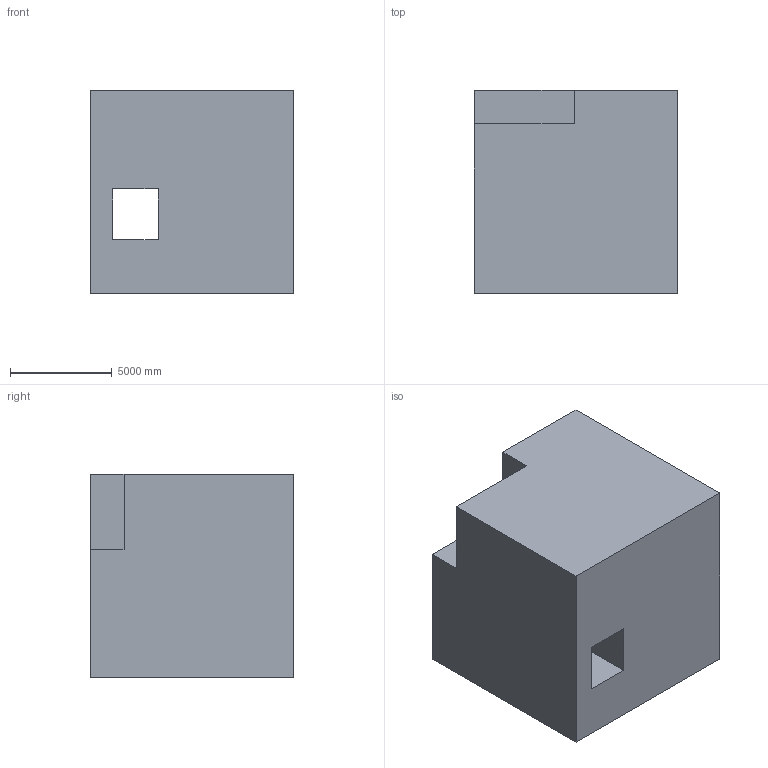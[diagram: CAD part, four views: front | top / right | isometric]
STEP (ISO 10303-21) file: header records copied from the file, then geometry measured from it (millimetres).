
FILE_DESCRIPTION (( 'STEP AP203' ), '1' );
FILE_NAME ('1195.STEP', '2022-08-18T13:08:08', ( 'user' ), ( '' ), 'SwSTEP 2.0', 'SolidWorks 2021', '' );
FILE_SCHEMA (( 'CONFIG_CONTROL_DESIGN' ));
Length unit declared in the file: centimetre
Products named in the file (1): 1195
Bounding box: 10000 x 10000 x 10000 mm (x, y, z)
Volume: 913678741255 mm3; surface area: 683743981.2 mm2
Topology: 1 solids, 1 shells, 13 faces, 33 edges, 22 vertices
Faces by surface type: plane 13
Entity records: 468 total; most frequent: CARTESIAN_POINT 69, ORIENTED_EDGE 66, DIRECTION 61, EDGE_CURVE 33, LINE 33, VECTOR 33, VERTEX_POINT 22, EDGE_LOOP 15
